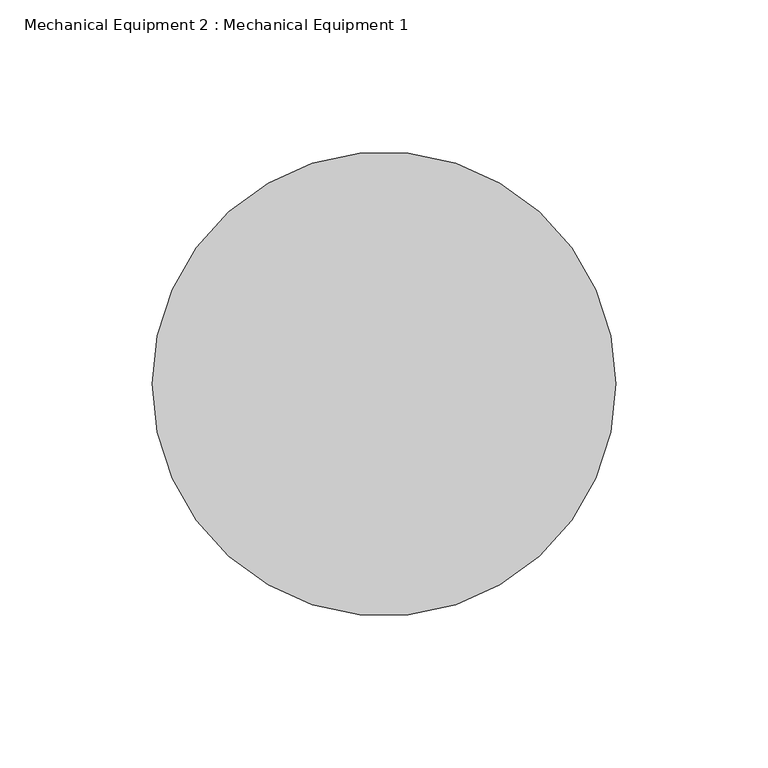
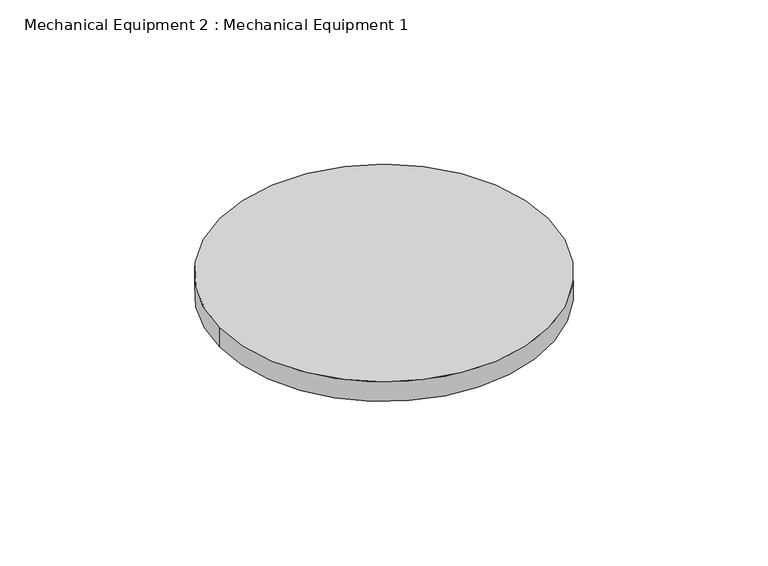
"""IFC4 building model written with IfcOpenShell, lengths in millimetres: proxy geometry, Mechanical Equipment 2 : Mechanical Equipment 1."""

from ifc_helpers import new_model, si_unit, point, frame, frame_2d, origin, place, context, project, spatial, circle_curve, trimmed, segment, composite_curve, outline, extrude, source, transform, mapped, element, save


def mechanical_equipment_2_mechanical_equipment_1_fe574fe3(model_context):
    return source(origin(), model_context, "Body", "SweptSolid", [
        extrude(outline(composite_curve([segment(trimmed(circle_curve(frame_2d((11487.6310586, 2040.2688308)), 76.2), [point((11411.4310586, 2040.2688308))], [point((11563.8310586, 2040.2688308))], False, "CARTESIAN"), True, "CONTINUOUS"), segment(trimmed(circle_curve(frame_2d((11487.6310586, 2040.2688308)), 76.2), [point((11563.8310586, 2040.2688308))], [point((11411.4310586, 2040.2688308))], False, "CARTESIAN"), True, "CONTINUOUS")], self_intersect=False)), frame((0.0, 0.0, 404.4517558), z_axis=(0.0, 0.0, 1.0), x_axis=(1.0, 0.0, 0.0)), (0.0, 0.0, 1.0), 9.5774743),
    ])


if __name__ == "__main__":
    model = new_model("IFC4")
    model_context = context("Model", 3, world=origin())
    ifc_project = project(units=[si_unit("LENGTHUNIT", "METRE", prefix="MILLI")], contexts=[model_context])
    site = spatial("IfcSite", under=ifc_project)
    building = spatial("IfcBuilding", under=site)
    placement = place(None, origin())
    mechanical_equipment_2_mechanical_equipment_1_shape = mechanical_equipment_2_mechanical_equipment_1_fe574fe3(model_context)
    element("IfcBuildingElementProxy", 1, Name="Mechanical Equipment 2 : Mechanical Equipment 1", ObjectType="Mechanical Equipment 2 : Mechanical Equipment 1", at=placement, inside=building, context=model_context, shape_type="MappedRepresentation", body=[
        mapped(mechanical_equipment_2_mechanical_equipment_1_shape, transform((0.0, 0.0, 0.0), x_axis=(1.0, 0.0, 0.0), y_axis=(0.0, 1.0, 0.0), z_axis=(0.0, 0.0, 1.0))),
    ])
    save(model, "model.ifc")
